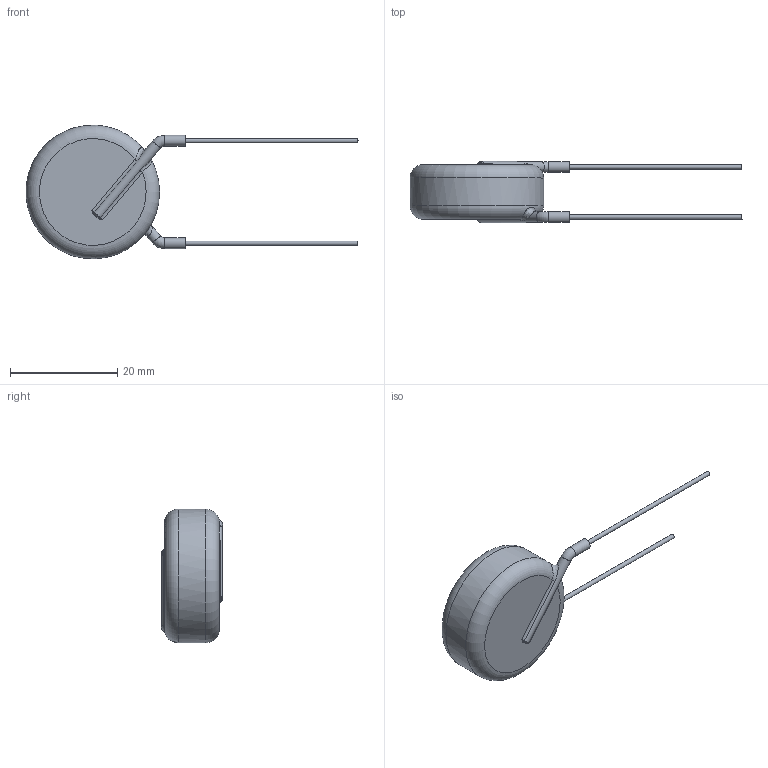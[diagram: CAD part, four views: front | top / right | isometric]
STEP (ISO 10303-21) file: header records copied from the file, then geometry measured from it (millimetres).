
FILE_DESCRIPTION((''),'2;1');
FILE_NAME('I:\Marketing\M6t1\3D-Models\Zchng-Werk-3\Upload for homepage\Ceramite\Z5U-15kV\615R150GAD25\615R150GAD25.stp','2015-08-28T12:24:30',(''),(''),'Autodesk Inventor 2013','Autodesk Inventor 2013','');
FILE_SCHEMA(('AUTOMOTIVE_DESIGN { 1 0 10303 214 1 1 1 1 }'));
Length unit declared in the file: centimetre
Products named in the file (1): 615R150GAD25
Bounding box: 61.9 x 11.4 x 24.9 mm (x, y, z)
Volume: 4886.3 mm3; surface area: 1883.6 mm2
Topology: 1 solids, 1 shells, 41 faces, 92 edges, 51 vertices
Faces by surface type: cylinder 13, bspline 10, torus 10, plane 8
Full cylindrical faces by diameter (mm): 0.81 x2, 2 x4, 24.9 x1
Entity records: 1515 total; most frequent: CARTESIAN_POINT 682, DIRECTION 152, ORIENTED_EDGE 140, AXIS2_PLACEMENT_3D 70, EDGE_CURVE 70, EDGE_LOOP 54, VERTEX_POINT 44, STYLED_ITEM 42
